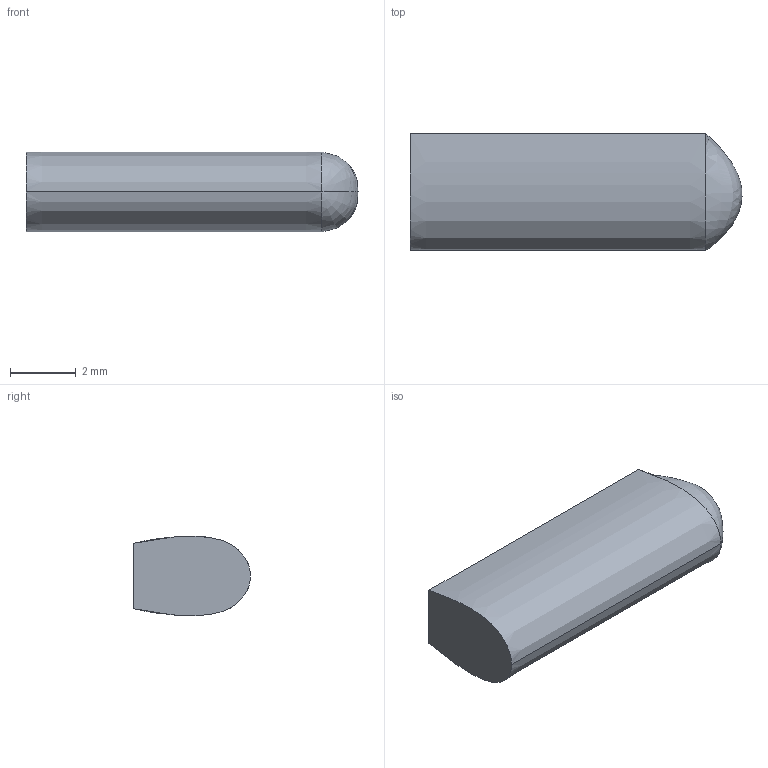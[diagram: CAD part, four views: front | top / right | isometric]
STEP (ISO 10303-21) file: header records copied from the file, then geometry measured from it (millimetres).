
FILE_DESCRIPTION((''),'1');
FILE_NAME('ELEK-ST12-16E','2001-03-29T',('rgoetz'),(''),'PRO/ENGINEER BY PARAMETRIC TECHNOLOGY CORPORATION, 2000350','PRO/ENGINEER BY PARAMETRIC TECHNOLOGY CORPORATION, 2000350','');
FILE_SCHEMA(('CONFIG_CONTROL_DESIGN'));
Length unit declared in the file: millimetre
Products named in the file (1): ELEK-ST12-16E
Bounding box: 10.1 x 3.55 x 2.43 mm (x, y, z)
Volume: 72.5 mm3; surface area: 112.5 mm2
Topology: 1 solids, 1 shells, 6 faces, 13 edges, 7 vertices
Faces by surface type: plane 2, extrusion 2, bspline 2
Entity records: 553 total; most frequent: CARTESIAN_POINT 412, ORIENTED_EDGE 22, EDGE_CURVE 11, DIRECTION 10, B_SPLINE_CURVE_WITH_KNOTS 9, VERTEX_POINT 7, VECTOR 6, EDGE_LOOP 6
